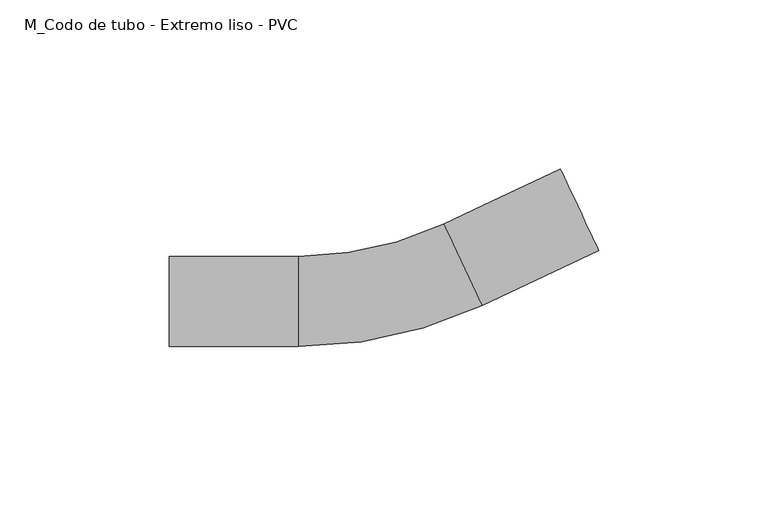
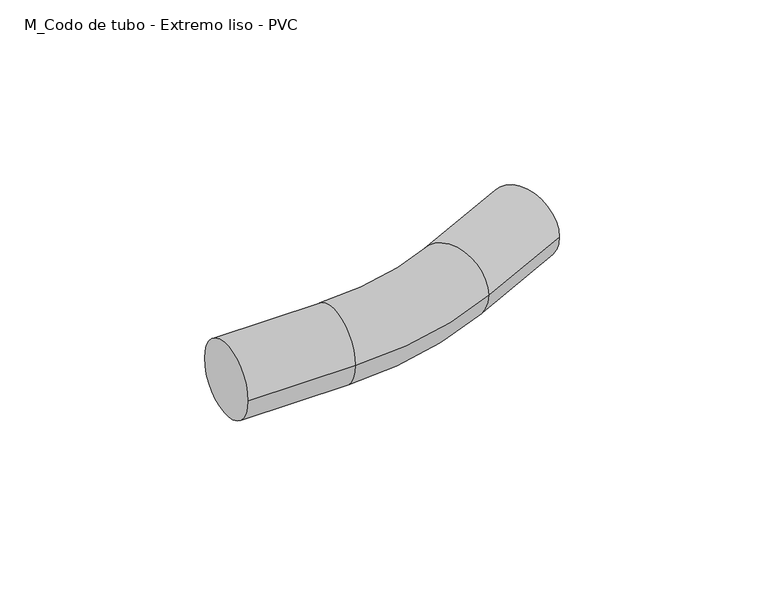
"""IFC4 building model written with IfcOpenShell, lengths in millimetres: cable carrier fitting geometry, M_Codo de tubo - Extremo liso - PVC : CODO ILUMINACION."""

from ifc_helpers import new_model, si_unit, point, frame, origin, place, context, project, spatial, circle_curve, ellipse_curve, trimmed, source, transform, mapped, element, save
from ifc_brep_helpers import plane_surface, cylinder_surface, revolved_surface, advanced_brep


def m_codo_de_tubo_extremo_liso_pvc_a8d565f0(model_context):
    return source(origin(), model_context, "Body", "AdvancedBrep", [
        advanced_brep(
        [(-63.6397385, -13.335, 0.0), (-63.6397385, 13.335, 0.0), (-25.5397385, -13.335, 0.0), (-25.5397385, 13.335, 0.0), (17.4348494, 22.9374474, 0.0), (28.7866273, -1.1960571, 0.0), (63.2630623, 15.0207685, 0.0), (51.9112844, 39.154273, 0.0)],
        [
            (0, 1, circle_curve(frame((-63.6397385, 0.0, 0.0), z_axis=(-1.0, 0.0, 0.0), x_axis=(0.0, 1.0, 0.0)), 13.335)),
            (1, 0, circle_curve(frame((-63.6397385, 0.0, 0.0), z_axis=(-1.0, 0.0, 0.0), x_axis=(0.0, 1.0, 0.0)), 13.335)),
            (0, 2),
            (2, 3, circle_curve(frame((-25.5397385, 0.0, 0.0), z_axis=(-1.0, 0.0, 0.0), x_axis=(0.0, 1.0, 0.0)), 13.335)),
            (3, 1),
            (3, 2, circle_curve(frame((-25.5397385, 0.0, 0.0), z_axis=(-1.0, 0.0, 0.0), x_axis=(0.0, 1.0, 0.0)), 13.335)),
            (4, 3, circle_curve(frame((-25.5397385, 114.3, 0.0), z_axis=(0.0, 0.0, -1.0), x_axis=(0.0, -1.0, 0.0)), 100.965)),
            (2, 5, circle_curve(frame((-25.5397385, 114.3, 0.0), z_axis=(0.0, 0.0, 1.0), x_axis=(0.0, -1.0, 0.0)), 127.635)),
            (5, 4, circle_curve(frame((23.1107384, 10.8706951, 0.0), z_axis=(-0.9048933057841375, -0.42563846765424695, 0.0), x_axis=(-0.42563846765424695, 0.9048933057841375, 0.0)), 13.335)),
            (4, 5, circle_curve(frame((23.1107384, 10.8706951, 0.0), z_axis=(-0.9048933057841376, -0.42563846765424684, 0.0), x_axis=(-0.42563846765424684, 0.9048933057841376, 0.0)), 13.335)),
            (6, 7, circle_curve(frame((57.5871733, 27.0875208, 0.0), z_axis=(0.9048933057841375, 0.42563846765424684, 0.0), x_axis=(-0.42563846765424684, 0.9048933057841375, 0.0)), 13.335)),
            (7, 6, circle_curve(frame((57.5871733, 27.0875208, 0.0), z_axis=(0.9048933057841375, 0.42563846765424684, 0.0), x_axis=(-0.42563846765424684, 0.9048933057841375, 0.0)), 13.335)),
            (5, 6),
            (7, 4),
        ],
        [
            plane_surface(frame((-63.6397385, 0.0, 0.0), z_axis=(-1.0, 0.0, 0.0), x_axis=(0.0, 0.0, 1.0))),
            cylinder_surface(frame((-63.6397385, 0.0, 0.0), z_axis=(-1.0, 0.0, 0.0), x_axis=(0.0, 1.0, 0.0)), 13.335),
            revolved_surface(trimmed(ellipse_curve(frame((-25.5397385, 0.0, 0.0), z_axis=(-1.0, 0.0, 0.0), x_axis=(0.0, 1.0, 0.0)), 13.335, 13.335), [point((-25.5397385, -13.335, 0.0))], [point((-25.5397385, 13.335, 0.0))], True, "CARTESIAN"), (-25.5397385, 114.3, 0.0), (0.0, 0.0, 1.0)),
            revolved_surface(trimmed(ellipse_curve(frame((-25.5397385, 0.0, 0.0), z_axis=(-1.0, 0.0, 0.0), x_axis=(0.0, 1.0, 0.0)), 13.335, 13.335), [point((-25.5397385, 13.335, 0.0))], [point((-25.5397385, -13.335, 0.0))], True, "CARTESIAN"), (-25.5397385, 114.3, 0.0), (0.0, 0.0, 1.0)),
            plane_surface(frame((57.5871733, 27.0875208, 0.0), z_axis=(0.9048933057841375, 0.42563846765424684, 0.0), x_axis=(0.0, 0.0, 1.0))),
            cylinder_surface(frame((23.1107384, 10.8706951, 0.0), z_axis=(-0.9048933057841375, -0.42563846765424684, 0.0), x_axis=(-0.42563846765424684, 0.9048933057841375, 0.0)), 13.335),
        ],
        [
            (0, [[1, 2]]),
            (1, [[-1, 3, 4, 5]]),
            (1, [[-2, -5, 6, -3]]),
            (2, [[7, -4, 8, 9]]),
            (3, [[-8, -6, -7, 10]]),
            (4, [[11, 12]]),
            (5, [[-9, 13, -12, 14]]),
            (5, [[-10, -14, -11, -13]]),
        ],
    ),
    ])


if __name__ == "__main__":
    model = new_model("IFC4")
    model_context = context("Model", 3, world=origin())
    ifc_project = project(units=[si_unit("LENGTHUNIT", "METRE", prefix="MILLI")], contexts=[model_context])
    site = spatial("IfcSite", under=ifc_project)
    building = spatial("IfcBuilding", under=site)
    placement = place(None, origin())
    m_codo_de_tubo_extremo_liso_pvc_shape = m_codo_de_tubo_extremo_liso_pvc_a8d565f0(model_context)
    element("IfcCableCarrierFitting", 1, ObjectType="M_Codo de tubo - Extremo liso - PVC : CODO ILUMINACION", at=placement, inside=building, context=model_context, shape_type="MappedRepresentation", body=[
        mapped(m_codo_de_tubo_extremo_liso_pvc_shape, transform((0.0, 0.0, 0.0), x_axis=(1.0, 0.0, 0.0), y_axis=(0.0, 1.0, 0.0), z_axis=(0.0, 0.0, 1.0))),
    ])
    save(model, "model.ifc")
